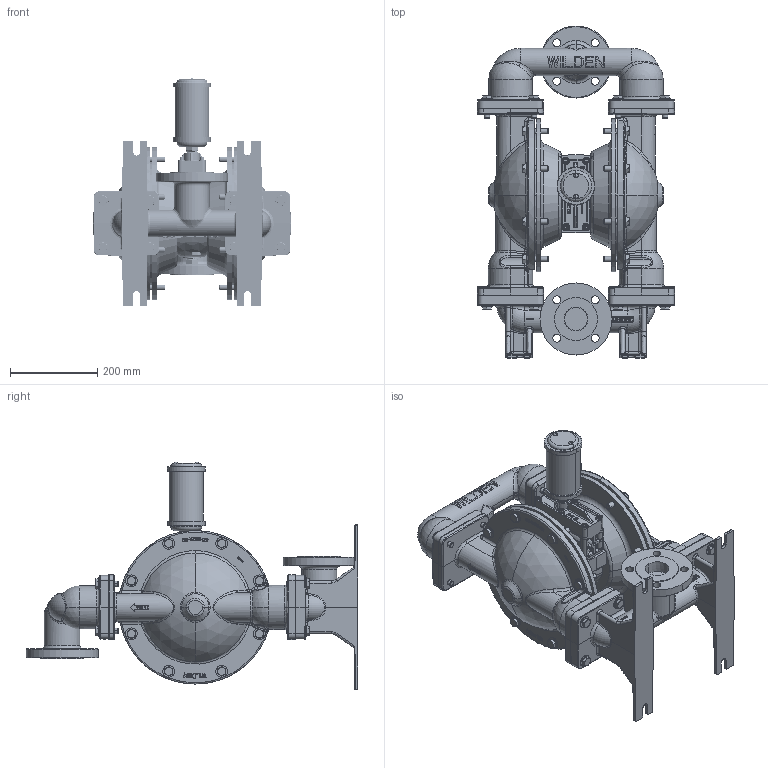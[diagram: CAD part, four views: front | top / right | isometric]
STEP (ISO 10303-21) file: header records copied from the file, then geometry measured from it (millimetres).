
FILE_DESCRIPTION (( 'STEP AP203' ), '1' );
FILE_NAME ('P830_DI_TOP.STEP', '2022-07-05T07:46:38', ( '' ), ( '' ), 'SwSTEP 2.0', 'SolidWorks 2019', '' );
FILE_SCHEMA (( 'CONFIG_CONTROL_DESIGN' ));
Products named in the file (1): P830_DI_TOP
Bounding box: 452.44 x 760.73 x 522.1 mm (x, y, z)
Volume: 27455713.3 mm3; surface area: 1609419.1 mm2
Topology: 1 solids, 1 shells, 6157 faces, 16054 edges, 10192 vertices
Faces by surface type: plane 3929, cylinder 1000, bspline 518, cone 383, torus 208, sphere 119
Entity records: 310595 total; most frequent: CARTESIAN_POINT 163933, ORIENTED_EDGE 31992, DIRECTION 27912, EDGE_CURVE 15996, LINE 11018, VECTOR 11018, VERTEX_POINT 10175, AXIS2_PLACEMENT_3D 8447
